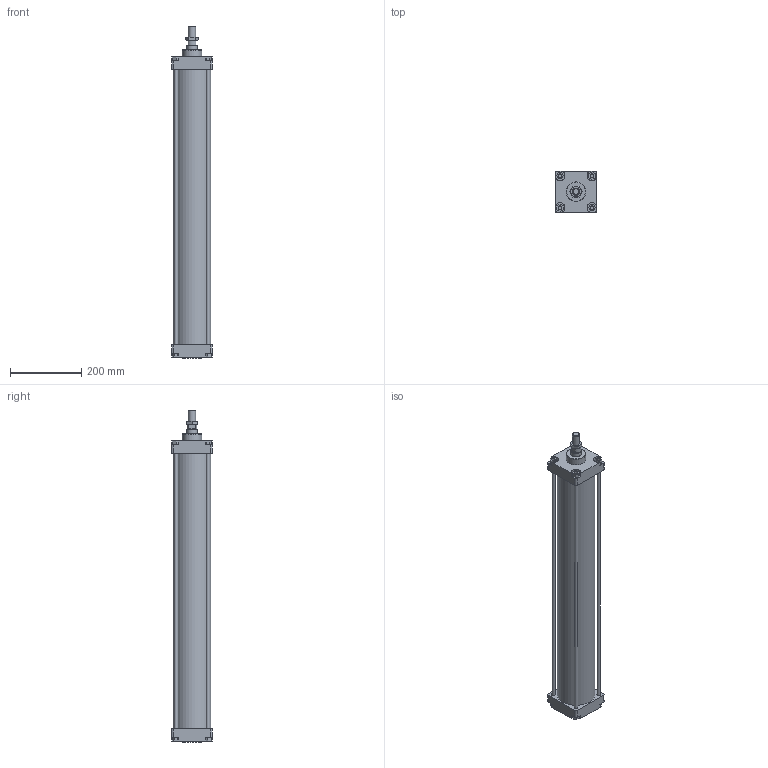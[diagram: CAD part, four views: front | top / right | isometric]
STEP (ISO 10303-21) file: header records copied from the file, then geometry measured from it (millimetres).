
FILE_DESCRIPTION(/* description */ (''),/* implementation_level */ '2;1');
FILE_NAME(/* name */ 'I:\Area Tecnica\Disegni\VARIE-3D\Componenti\CSP\Ø100\130#_100_####_###\130#_100_0700_01A.stp',/* time_stamp */ '2016-11-24T13:52:23+01:00',/* author */ ('Maniean1'),/* organization */ ('Pneumax S.p.A.'),/* preprocessor_version */ 'ST-DEVELOPER v15.2',/* originating_system */ 'Autodesk Inventor 2014',/* authorisation */ '');
FILE_SCHEMA (('AUTOMOTIVE_DESIGN { 1 0 10303 214 3 1 1 }'));
Length unit declared in the file: millimetre
Products named in the file (6): C_130#_100_0700; Testata anteriore_100; Testata posteriore_100; S_130#_100_0700_01A; 130#_100_18F; 130#_100_0700_01A
Bounding box: 115 x 115 x 934 mm (x, y, z)
Volume: 2999622.9 mm3; surface area: 830892.7 mm2
Topology: 9 solids, 9 shells, 162 faces, 380 edges, 249 vertices
Faces by surface type: plane 105, cylinder 42, cone 15
Full cylindrical faces by diameter (mm): 10 x12, 18.376 x1, 18.5 x1, 19 x2, 20 x1, 28 x1, 30 x3, 55 x2, 100 x2, 106 x1
Entity records: 4530 total; most frequent: CARTESIAN_POINT 785, DIRECTION 764, ORIENTED_EDGE 672, EDGE_CURVE 336, AXIS2_PLACEMENT_3D 271, VERTEX_POINT 244, EDGE_LOOP 236, LINE 222
